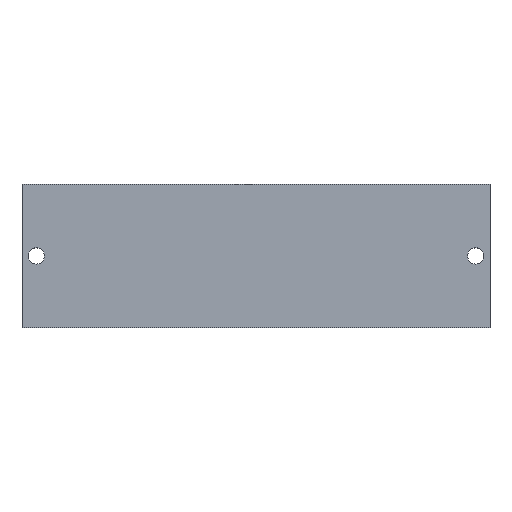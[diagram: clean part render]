
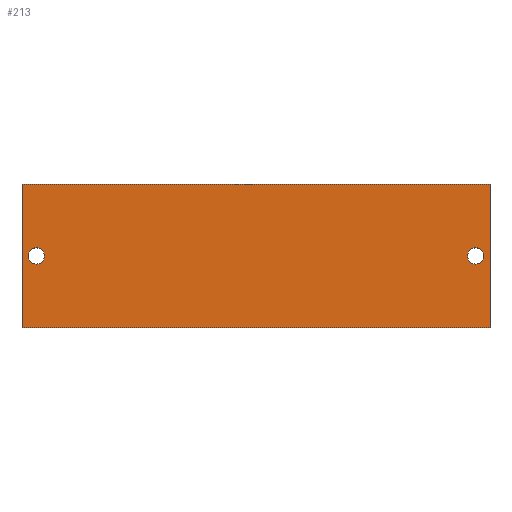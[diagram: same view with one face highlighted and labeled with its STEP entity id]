
A CAD part, top view. The second image highlights one B-rep face of the part: STEP entity #213.
In plain terms, the highlighted planar face has unit normal (0, 0, 1).
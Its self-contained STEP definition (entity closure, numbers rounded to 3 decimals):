
#24 = VERTEX_POINT('',#25);
#25 = CARTESIAN_POINT('',(-49.002,25.,27.925));
#32 = PLANE('',#33);
#33 = AXIS2_PLACEMENT_3D('',#34,#35,#36);
#34 = CARTESIAN_POINT('',(-49.002,25.,21.925));
#35 = DIRECTION('',(1.,0.,0.));
#36 = DIRECTION('',(0.,0.,1.));
#44 = PLANE('',#45);
#45 = AXIS2_PLACEMENT_3D('',#46,#47,#48);
#46 = CARTESIAN_POINT('',(-49.002,25.,21.925));
#47 = DIRECTION('',(0.,1.,0.));
#48 = DIRECTION('',(0.,0.,1.));
#85 = VERTEX_POINT('',#86);
#86 = CARTESIAN_POINT('',(-49.002,55.,27.925));
#100 = PLANE('',#101);
#101 = AXIS2_PLACEMENT_3D('',#102,#103,#104);
#102 = CARTESIAN_POINT('',(-49.002,55.,21.925));
#103 = DIRECTION('',(0.,1.,0.));
#104 = DIRECTION('',(0.,0.,1.));
#112 = EDGE_CURVE('',#24,#85,#113,.T.);
#113 = SURFACE_CURVE('',#114,(#118,#125),.PCURVE_S1.);
#114 = LINE('',#115,#116);
#115 = CARTESIAN_POINT('',(-49.002,25.,27.925));
#116 = VECTOR('',#117,1.);
#117 = DIRECTION('',(0.,1.,0.));
#118 = PCURVE('',#32,#119);
#119 = DEFINITIONAL_REPRESENTATION('',(#120),#124);
#120 = LINE('',#121,#122);
#121 = CARTESIAN_POINT('',(6.,0.));
#122 = VECTOR('',#123,1.);
#123 = DIRECTION('',(0.,-1.));
#124 = ( GEOMETRIC_REPRESENTATION_CONTEXT(2) 
PARAMETRIC_REPRESENTATION_CONTEXT() REPRESENTATION_CONTEXT('2D SPACE',''
  ) );
#125 = PCURVE('',#126,#131);
#126 = PLANE('',#127);
#127 = AXIS2_PLACEMENT_3D('',#128,#129,#130);
#128 = CARTESIAN_POINT('',(-49.002,25.,27.925));
#129 = DIRECTION('',(0.,0.,1.));
#130 = DIRECTION('',(1.,0.,0.));
#131 = DEFINITIONAL_REPRESENTATION('',(#132),#136);
#132 = LINE('',#133,#134);
#133 = CARTESIAN_POINT('',(0.,0.));
#134 = VECTOR('',#135,1.);
#135 = DIRECTION('',(0.,1.));
#136 = ( GEOMETRIC_REPRESENTATION_CONTEXT(2) 
PARAMETRIC_REPRESENTATION_CONTEXT() REPRESENTATION_CONTEXT('2D SPACE',''
  ) );
#165 = EDGE_CURVE('',#24,#166,#168,.T.);
#166 = VERTEX_POINT('',#167);
#167 = CARTESIAN_POINT('',(49.002,25.,27.925));
#168 = SURFACE_CURVE('',#169,(#173,#180),.PCURVE_S1.);
#169 = LINE('',#170,#171);
#170 = CARTESIAN_POINT('',(-49.002,25.,27.925));
#171 = VECTOR('',#172,1.);
#172 = DIRECTION('',(1.,0.,0.));
#173 = PCURVE('',#44,#174);
#174 = DEFINITIONAL_REPRESENTATION('',(#175),#179);
#175 = LINE('',#176,#177);
#176 = CARTESIAN_POINT('',(6.,0.));
#177 = VECTOR('',#178,1.);
#178 = DIRECTION('',(0.,1.));
#179 = ( GEOMETRIC_REPRESENTATION_CONTEXT(2) 
PARAMETRIC_REPRESENTATION_CONTEXT() REPRESENTATION_CONTEXT('2D SPACE',''
  ) );
#180 = PCURVE('',#126,#181);
#181 = DEFINITIONAL_REPRESENTATION('',(#182),#186);
#182 = LINE('',#183,#184);
#183 = CARTESIAN_POINT('',(0.,0.));
#184 = VECTOR('',#185,1.);
#185 = DIRECTION('',(1.,0.));
#186 = ( GEOMETRIC_REPRESENTATION_CONTEXT(2) 
PARAMETRIC_REPRESENTATION_CONTEXT() REPRESENTATION_CONTEXT('2D SPACE',''
  ) );
#202 = PLANE('',#203);
#203 = AXIS2_PLACEMENT_3D('',#204,#205,#206);
#204 = CARTESIAN_POINT('',(49.002,25.,21.925));
#205 = DIRECTION('',(1.,0.,0.));
#206 = DIRECTION('',(0.,0.,1.));
#213 = ADVANCED_FACE('',(#214,#262,#293),#126,.T.);
#214 = FACE_BOUND('',#215,.T.);
#215 = EDGE_LOOP('',(#216,#217,#218,#241));
#216 = ORIENTED_EDGE('',*,*,#112,.F.);
#217 = ORIENTED_EDGE('',*,*,#165,.T.);
#218 = ORIENTED_EDGE('',*,*,#219,.T.);
#219 = EDGE_CURVE('',#166,#220,#222,.T.);
#220 = VERTEX_POINT('',#221);
#221 = CARTESIAN_POINT('',(49.002,55.,27.925));
#222 = SURFACE_CURVE('',#223,(#227,#234),.PCURVE_S1.);
#223 = LINE('',#224,#225);
#224 = CARTESIAN_POINT('',(49.002,25.,27.925));
#225 = VECTOR('',#226,1.);
#226 = DIRECTION('',(0.,1.,0.));
#227 = PCURVE('',#126,#228);
#228 = DEFINITIONAL_REPRESENTATION('',(#229),#233);
#229 = LINE('',#230,#231);
#230 = CARTESIAN_POINT('',(98.004,0.));
#231 = VECTOR('',#232,1.);
#232 = DIRECTION('',(0.,1.));
#233 = ( GEOMETRIC_REPRESENTATION_CONTEXT(2) 
PARAMETRIC_REPRESENTATION_CONTEXT() REPRESENTATION_CONTEXT('2D SPACE',''
  ) );
#234 = PCURVE('',#202,#235);
#235 = DEFINITIONAL_REPRESENTATION('',(#236),#240);
#236 = LINE('',#237,#238);
#237 = CARTESIAN_POINT('',(6.,0.));
#238 = VECTOR('',#239,1.);
#239 = DIRECTION('',(0.,-1.));
#240 = ( GEOMETRIC_REPRESENTATION_CONTEXT(2) 
PARAMETRIC_REPRESENTATION_CONTEXT() REPRESENTATION_CONTEXT('2D SPACE',''
  ) );
#241 = ORIENTED_EDGE('',*,*,#242,.F.);
#242 = EDGE_CURVE('',#85,#220,#243,.T.);
#243 = SURFACE_CURVE('',#244,(#248,#255),.PCURVE_S1.);
#244 = LINE('',#245,#246);
#245 = CARTESIAN_POINT('',(-49.002,55.,27.925));
#246 = VECTOR('',#247,1.);
#247 = DIRECTION('',(1.,0.,0.));
#248 = PCURVE('',#126,#249);
#249 = DEFINITIONAL_REPRESENTATION('',(#250),#254);
#250 = LINE('',#251,#252);
#251 = CARTESIAN_POINT('',(0.,30.));
#252 = VECTOR('',#253,1.);
#253 = DIRECTION('',(1.,0.));
#254 = ( GEOMETRIC_REPRESENTATION_CONTEXT(2) 
PARAMETRIC_REPRESENTATION_CONTEXT() REPRESENTATION_CONTEXT('2D SPACE',''
  ) );
#255 = PCURVE('',#100,#256);
#256 = DEFINITIONAL_REPRESENTATION('',(#257),#261);
#257 = LINE('',#258,#259);
#258 = CARTESIAN_POINT('',(6.,0.));
#259 = VECTOR('',#260,1.);
#260 = DIRECTION('',(0.,1.));
#261 = ( GEOMETRIC_REPRESENTATION_CONTEXT(2) 
PARAMETRIC_REPRESENTATION_CONTEXT() REPRESENTATION_CONTEXT('2D SPACE',''
  ) );
#262 = FACE_BOUND('',#263,.T.);
#263 = EDGE_LOOP('',(#264));
#264 = ORIENTED_EDGE('',*,*,#265,.F.);
#265 = EDGE_CURVE('',#266,#266,#268,.T.);
#266 = VERTEX_POINT('',#267);
#267 = CARTESIAN_POINT('',(-44.302,40.,27.925));
#268 = SURFACE_CURVE('',#269,(#274,#281),.PCURVE_S1.);
#269 = CIRCLE('',#270,1.7);
#270 = AXIS2_PLACEMENT_3D('',#271,#272,#273);
#271 = CARTESIAN_POINT('',(-46.002,40.,27.925));
#272 = DIRECTION('',(0.,0.,1.));
#273 = DIRECTION('',(1.,0.,-0.));
#274 = PCURVE('',#126,#275);
#275 = DEFINITIONAL_REPRESENTATION('',(#276),#280);
#276 = CIRCLE('',#277,1.7);
#277 = AXIS2_PLACEMENT_2D('',#278,#279);
#278 = CARTESIAN_POINT('',(3.,15.));
#279 = DIRECTION('',(1.,0.));
#280 = ( GEOMETRIC_REPRESENTATION_CONTEXT(2) 
PARAMETRIC_REPRESENTATION_CONTEXT() REPRESENTATION_CONTEXT('2D SPACE',''
  ) );
#281 = PCURVE('',#282,#287);
#282 = CYLINDRICAL_SURFACE('',#283,1.7);
#283 = AXIS2_PLACEMENT_3D('',#284,#285,#286);
#284 = CARTESIAN_POINT('',(-46.002,40.,15.925));
#285 = DIRECTION('',(0.,0.,1.));
#286 = DIRECTION('',(1.,0.,0.));
#287 = DEFINITIONAL_REPRESENTATION('',(#288),#292);
#288 = LINE('',#289,#290);
#289 = CARTESIAN_POINT('',(0.,12.));
#290 = VECTOR('',#291,1.);
#291 = DIRECTION('',(1.,0.));
#292 = ( GEOMETRIC_REPRESENTATION_CONTEXT(2) 
PARAMETRIC_REPRESENTATION_CONTEXT() REPRESENTATION_CONTEXT('2D SPACE',''
  ) );
#293 = FACE_BOUND('',#294,.T.);
#294 = EDGE_LOOP('',(#295));
#295 = ORIENTED_EDGE('',*,*,#296,.F.);
#296 = EDGE_CURVE('',#297,#297,#299,.T.);
#297 = VERTEX_POINT('',#298);
#298 = CARTESIAN_POINT('',(47.702,40.,27.925));
#299 = SURFACE_CURVE('',#300,(#305,#312),.PCURVE_S1.);
#300 = CIRCLE('',#301,1.7);
#301 = AXIS2_PLACEMENT_3D('',#302,#303,#304);
#302 = CARTESIAN_POINT('',(46.002,40.,27.925));
#303 = DIRECTION('',(0.,0.,1.));
#304 = DIRECTION('',(1.,0.,-0.));
#305 = PCURVE('',#126,#306);
#306 = DEFINITIONAL_REPRESENTATION('',(#307),#311);
#307 = CIRCLE('',#308,1.7);
#308 = AXIS2_PLACEMENT_2D('',#309,#310);
#309 = CARTESIAN_POINT('',(95.004,15.));
#310 = DIRECTION('',(1.,0.));
#311 = ( GEOMETRIC_REPRESENTATION_CONTEXT(2) 
PARAMETRIC_REPRESENTATION_CONTEXT() REPRESENTATION_CONTEXT('2D SPACE',''
  ) );
#312 = PCURVE('',#313,#318);
#313 = CYLINDRICAL_SURFACE('',#314,1.7);
#314 = AXIS2_PLACEMENT_3D('',#315,#316,#317);
#315 = CARTESIAN_POINT('',(46.002,40.,15.925));
#316 = DIRECTION('',(0.,0.,1.));
#317 = DIRECTION('',(1.,0.,0.));
#318 = DEFINITIONAL_REPRESENTATION('',(#319),#323);
#319 = LINE('',#320,#321);
#320 = CARTESIAN_POINT('',(0.,12.));
#321 = VECTOR('',#322,1.);
#322 = DIRECTION('',(1.,0.));
#323 = ( GEOMETRIC_REPRESENTATION_CONTEXT(2) 
PARAMETRIC_REPRESENTATION_CONTEXT() REPRESENTATION_CONTEXT('2D SPACE',''
  ) );
